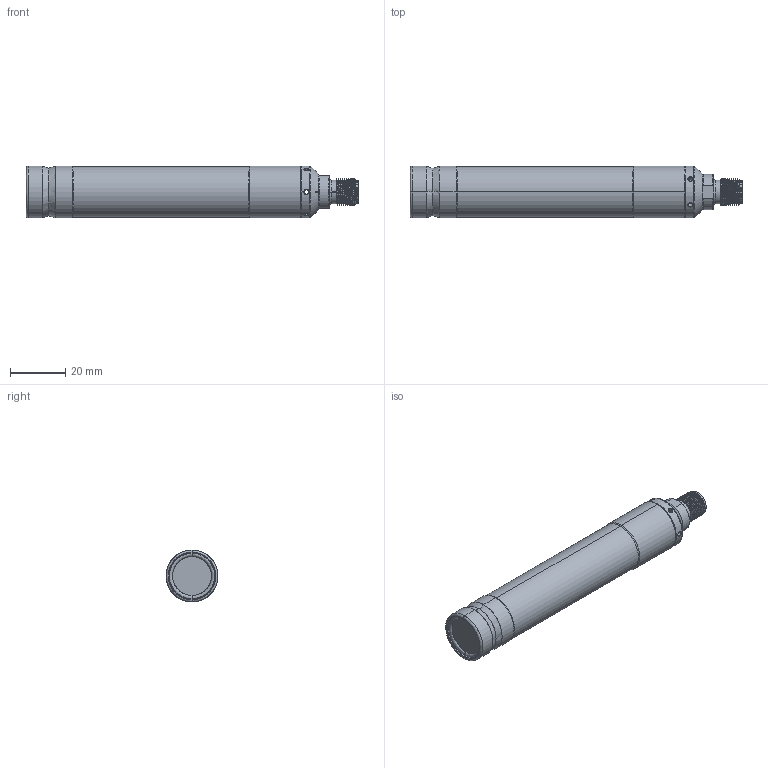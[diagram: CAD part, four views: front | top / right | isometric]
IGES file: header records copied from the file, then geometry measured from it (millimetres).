
Start section: SolidWorks IGES file using analytic representation for surfaces
Global section: file name: S:\3D_Product_Models\Lasers\MicroSeaLaser-I55W1002BCR-0C-A-20140708A.IGS; native system: SolidWorks 2014; preprocessor: SolidWorks 2014; author: CJ_Chew; date: 140708.141954; units: inch
Bounding box: 120.27 x 18.8 x 18.8 mm (x, y, z)
Surface area: 7903.1 mm2 (no closed solid volume)
Topology: 0 solids, 0 shells, 138 faces, 1729 edges, 1717 vertices
Faces by surface type: revolution 101, bspline 37
